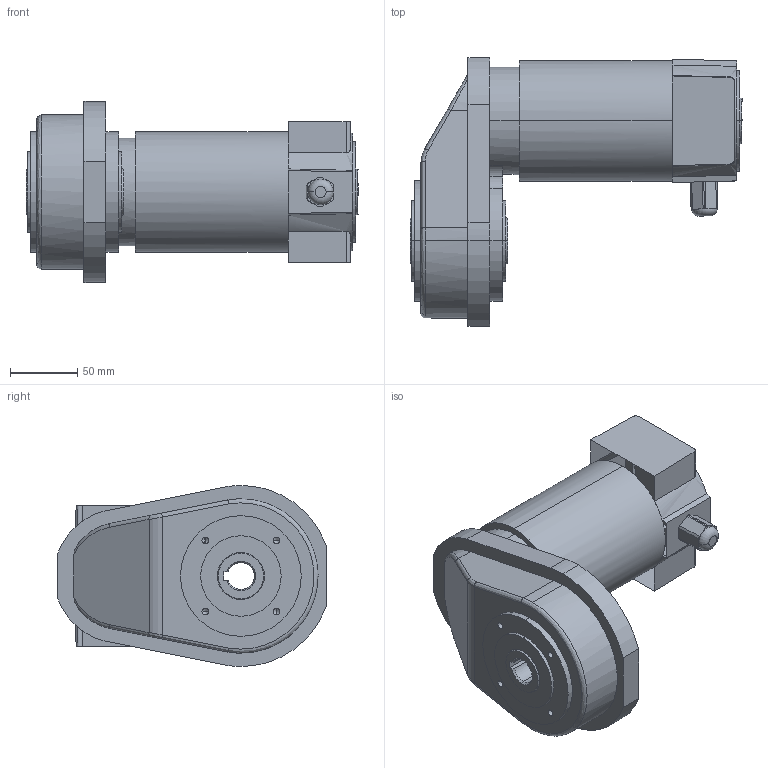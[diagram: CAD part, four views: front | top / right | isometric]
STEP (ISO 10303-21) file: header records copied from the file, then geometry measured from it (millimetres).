
FILE_DESCRIPTION(('OneSpaceDesigner STEP Export'),'2;1');
FILE_NAME('EPG21_FB30.stp','2010-04-13T10:40:20',(''),(''),'OneSpace Designer STEP processor (Jan. 2003) for AP214(CD)(Solid Model)','OneSpace Designer 12.01D 09-Jul-2004 (C) CoCreate Software GmbH','');
FILE_SCHEMA(('AUTOMOTIVE_DESIGN_CC2 {1 2 10303 214 -1 1 5 1}'));
Length unit declared in the file: millimetre
Products named in the file (2): EPG21_FB30
Assembly tree (1 placements, depth 2):
  EPG21_FB30
    EPG21_FB30
Bounding box: 247.5 x 200 x 135 mm (x, y, z)
Volume: 2172622.3 mm3; surface area: 138991.8 mm2
Topology: 1 solids, 1 shells, 183 faces, 451 edges, 283 vertices
Faces by surface type: cylinder 88, plane 56, cone 26, bspline 11, torus 2
Entity records: 8018 total; most frequent: CARTESIAN_POINT 4131, ORIENTED_EDGE 870, DIRECTION 625, EDGE_CURVE 435, VERTEX_POINT 283, AXIS2_PLACEMENT_3D 215, EDGE_LOOP 214, VECTOR 195
